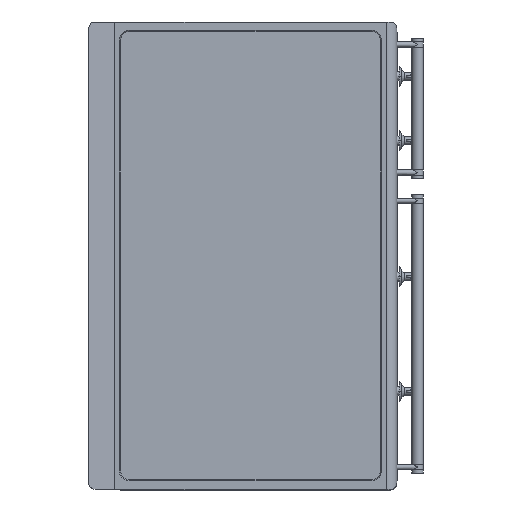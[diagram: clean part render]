
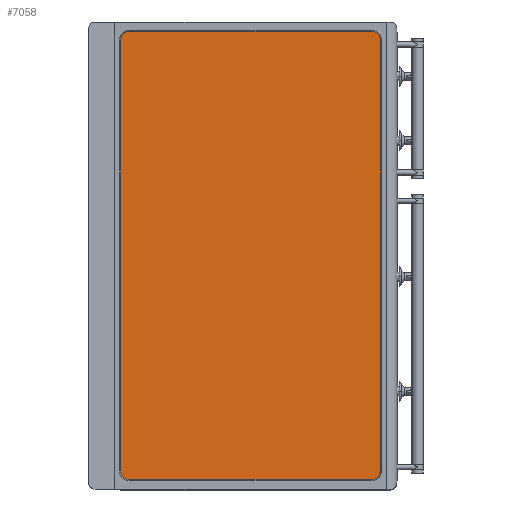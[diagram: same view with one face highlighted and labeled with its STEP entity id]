
A CAD part, top view. The second image highlights one B-rep face of the part: STEP entity #7058.
In plain terms, the highlighted planar face has unit normal (0, 0, 1).
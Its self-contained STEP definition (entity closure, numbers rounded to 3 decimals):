
#244=CIRCLE('',#7505,17.904);
#246=CIRCLE('',#7509,17.904);
#248=CIRCLE('',#7513,17.904);
#250=CIRCLE('',#7517,17.904);
#429=PLANE('',#7520);
#1920=ORIENTED_EDGE('',*,*,#2598,.T.);
#1921=ORIENTED_EDGE('',*,*,#2602,.T.);
#1922=ORIENTED_EDGE('',*,*,#2605,.T.);
#1923=ORIENTED_EDGE('',*,*,#2608,.T.);
#1924=ORIENTED_EDGE('',*,*,#2611,.T.);
#1925=ORIENTED_EDGE('',*,*,#2614,.T.);
#1926=ORIENTED_EDGE('',*,*,#2617,.T.);
#1927=ORIENTED_EDGE('',*,*,#2620,.T.);
#2598=EDGE_CURVE('',#3097,#3098,#3489,.T.);
#2602=EDGE_CURVE('',#3098,#3101,#244,.T.);
#2605=EDGE_CURVE('',#3101,#3103,#3494,.T.);
#2608=EDGE_CURVE('',#3103,#3105,#246,.T.);
#2611=EDGE_CURVE('',#3105,#3107,#3498,.T.);
#2614=EDGE_CURVE('',#3107,#3109,#248,.T.);
#2617=EDGE_CURVE('',#3109,#3111,#3502,.T.);
#2620=EDGE_CURVE('',#3111,#3097,#250,.T.);
#3097=VERTEX_POINT('',#12359);
#3098=VERTEX_POINT('',#12360);
#3101=VERTEX_POINT('',#12368);
#3103=VERTEX_POINT('',#12374);
#3105=VERTEX_POINT('',#12380);
#3107=VERTEX_POINT('',#12386);
#3109=VERTEX_POINT('',#12392);
#3111=VERTEX_POINT('',#12398);
#3489=LINE('',#12358,#3881);
#3494=LINE('',#12373,#3886);
#3498=LINE('',#12385,#3890);
#3502=LINE('',#12397,#3894);
#3881=VECTOR('',#8767,1000.);
#3886=VECTOR('',#8780,1000.);
#3890=VECTOR('',#8792,1000.);
#3894=VECTOR('',#8804,1000.);
#4285=EDGE_LOOP('',(#1920,#1921,#1922,#1923,#1924,#1925,#1926,#1927));
#4674=FACE_BOUND('',#4285,.T.);
#7058=ADVANCED_FACE('',(#4674),#429,.T.);
#7505=AXIS2_PLACEMENT_3D('',#12367,#8773,#8774);
#7509=AXIS2_PLACEMENT_3D('',#12379,#8785,#8786);
#7513=AXIS2_PLACEMENT_3D('',#12391,#8797,#8798);
#7517=AXIS2_PLACEMENT_3D('',#12403,#8809,#8810);
#7520=AXIS2_PLACEMENT_3D('',#12406,#8815,#8816);
#8767=DIRECTION('',(1.,0.,0.));
#8773=DIRECTION('',(0.,0.,1.));
#8774=DIRECTION('',(1.,0.,0.));
#8780=DIRECTION('',(0.,1.,0.));
#8785=DIRECTION('',(0.,0.,1.));
#8786=DIRECTION('',(1.,0.,0.));
#8792=DIRECTION('',(-1.,0.,0.));
#8797=DIRECTION('',(0.,0.,1.));
#8798=DIRECTION('',(1.,0.,0.));
#8804=DIRECTION('',(0.,-1.,0.));
#8809=DIRECTION('',(0.,0.,1.));
#8810=DIRECTION('',(1.,0.,0.));
#8815=DIRECTION('',(0.,0.,1.));
#8816=DIRECTION('',(1.,0.,0.));
#12358=CARTESIAN_POINT('',(-481.513,500.129,570.39));
#12359=CARTESIAN_POINT('',(-481.513,500.129,570.39));
#12360=CARTESIAN_POINT('',(-17.554,500.129,570.39));
#12367=CARTESIAN_POINT('',(-17.554,518.033,570.39));
#12368=CARTESIAN_POINT('',(0.35,518.033,570.39));
#12373=CARTESIAN_POINT('',(0.35,518.033,570.39));
#12374=CARTESIAN_POINT('',(0.35,1343.996,570.39));
#12379=CARTESIAN_POINT('',(-17.554,1343.996,570.39));
#12380=CARTESIAN_POINT('',(-17.554,1361.9,570.39));
#12385=CARTESIAN_POINT('',(-17.554,1361.9,570.39));
#12386=CARTESIAN_POINT('',(-481.513,1361.9,570.39));
#12391=CARTESIAN_POINT('',(-481.513,1343.996,570.39));
#12392=CARTESIAN_POINT('',(-499.417,1343.996,570.39));
#12397=CARTESIAN_POINT('',(-499.417,1343.996,570.39));
#12398=CARTESIAN_POINT('',(-499.417,518.033,570.39));
#12403=CARTESIAN_POINT('',(-481.513,518.033,570.39));
#12406=CARTESIAN_POINT('',(-17.554,518.033,570.39));
